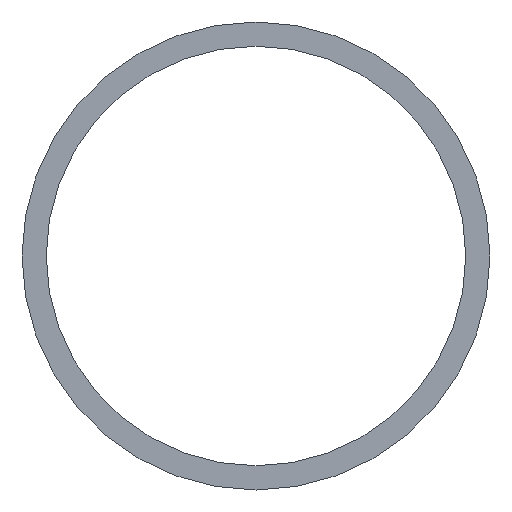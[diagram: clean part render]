
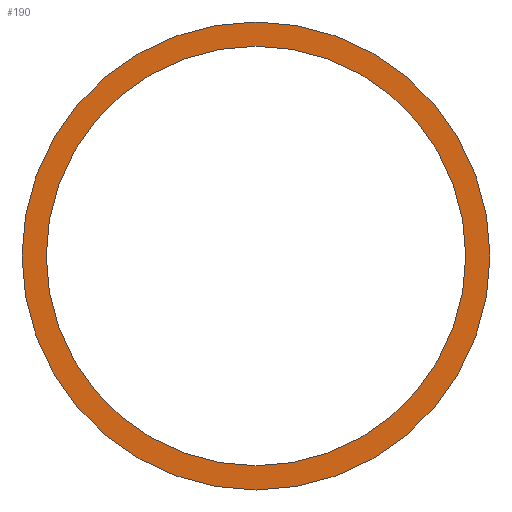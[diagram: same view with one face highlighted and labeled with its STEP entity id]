
A CAD part, front view. The second image highlights one B-rep face of the part: STEP entity #190.
In plain terms, the highlighted planar face has unit normal (0, -1, 0).
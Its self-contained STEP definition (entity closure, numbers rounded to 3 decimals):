
#1 = PLANE ( 'NONE',  #30 ) ;
#5 = CARTESIAN_POINT ( 'NONE',  ( 11020., 1148., 3520. ) ) ;
#11 = DIRECTION ( 'NONE',  ( 0., 0., -1. ) ) ;
#20 = EDGE_LOOP ( 'NONE', ( #202, #117 ) ) ;
#23 = VERTEX_POINT ( 'NONE', #5 ) ;
#30 = AXIS2_PLACEMENT_3D ( 'NONE', #59, #214, #182 ) ;
#35 = CARTESIAN_POINT ( 'NONE',  ( 11020., 1148., 3495.85 ) ) ;
#39 = VERTEX_POINT ( 'NONE', #186 ) ;
#44 = EDGE_CURVE ( 'NONE', #23, #102, #188, .T. ) ;
#45 = DIRECTION ( 'NONE',  ( 0., -1., 0. ) ) ;
#57 = CARTESIAN_POINT ( 'NONE',  ( 11020., 1148., 3495.85 ) ) ;
#59 = CARTESIAN_POINT ( 'NONE',  ( 11020., 1148., 3495.85 ) ) ;
#65 = ORIENTED_EDGE ( 'NONE', *, *, #195, .F. ) ;
#66 = EDGE_LOOP ( 'NONE', ( #154, #65 ) ) ;
#76 = CARTESIAN_POINT ( 'NONE',  ( 11020., 1148., 3474.2 ) ) ;
#77 = EDGE_CURVE ( 'NONE', #39, #200, #90, .T. ) ;
#78 = DIRECTION ( 'NONE',  ( 0., 0., -1. ) ) ;
#84 = CIRCLE ( 'NONE', #172, 21.65 ) ;
#89 = AXIS2_PLACEMENT_3D ( 'NONE', #35, #99, #121 ) ;
#90 = CIRCLE ( 'NONE', #135, 21.65 ) ;
#99 = DIRECTION ( 'NONE',  ( 0., -1., 0. ) ) ;
#102 = VERTEX_POINT ( 'NONE', #103 ) ;
#103 = CARTESIAN_POINT ( 'NONE',  ( 11020., 1148., 3471.7 ) ) ;
#113 = CARTESIAN_POINT ( 'NONE',  ( 11020., 1148., 3495.85 ) ) ;
#117 = ORIENTED_EDGE ( 'NONE', *, *, #192, .T. ) ;
#119 = CIRCLE ( 'NONE', #156, 24.15 ) ;
#121 = DIRECTION ( 'NONE',  ( 0., 0., -1. ) ) ;
#128 = DIRECTION ( 'NONE',  ( 0., -1., 0. ) ) ;
#135 = AXIS2_PLACEMENT_3D ( 'NONE', #57, #138, #193 ) ;
#138 = DIRECTION ( 'NONE',  ( 0., -1., 0. ) ) ;
#153 = FACE_BOUND ( 'NONE', #66, .T. ) ;
#154 = ORIENTED_EDGE ( 'NONE', *, *, #77, .F. ) ;
#156 = AXIS2_PLACEMENT_3D ( 'NONE', #113, #128, #78 ) ;
#161 = FACE_OUTER_BOUND ( 'NONE', #20, .T. ) ;
#172 = AXIS2_PLACEMENT_3D ( 'NONE', #180, #45, #11 ) ;
#180 = CARTESIAN_POINT ( 'NONE',  ( 11020., 1148., 3495.85 ) ) ;
#182 = DIRECTION ( 'NONE',  ( 0., 0., -1. ) ) ;
#186 = CARTESIAN_POINT ( 'NONE',  ( 11020., 1148., 3517.5 ) ) ;
#188 = CIRCLE ( 'NONE', #89, 24.15 ) ;
#190 = ADVANCED_FACE ( 'NONE', ( #153, #161 ), #1, .T. ) ;
#192 = EDGE_CURVE ( 'NONE', #102, #23, #119, .T. ) ;
#193 = DIRECTION ( 'NONE',  ( 0., 0., -1. ) ) ;
#195 = EDGE_CURVE ( 'NONE', #200, #39, #84, .T. ) ;
#200 = VERTEX_POINT ( 'NONE', #76 ) ;
#202 = ORIENTED_EDGE ( 'NONE', *, *, #44, .T. ) ;
#214 = DIRECTION ( 'NONE',  ( 0., -1., 0. ) ) ;
